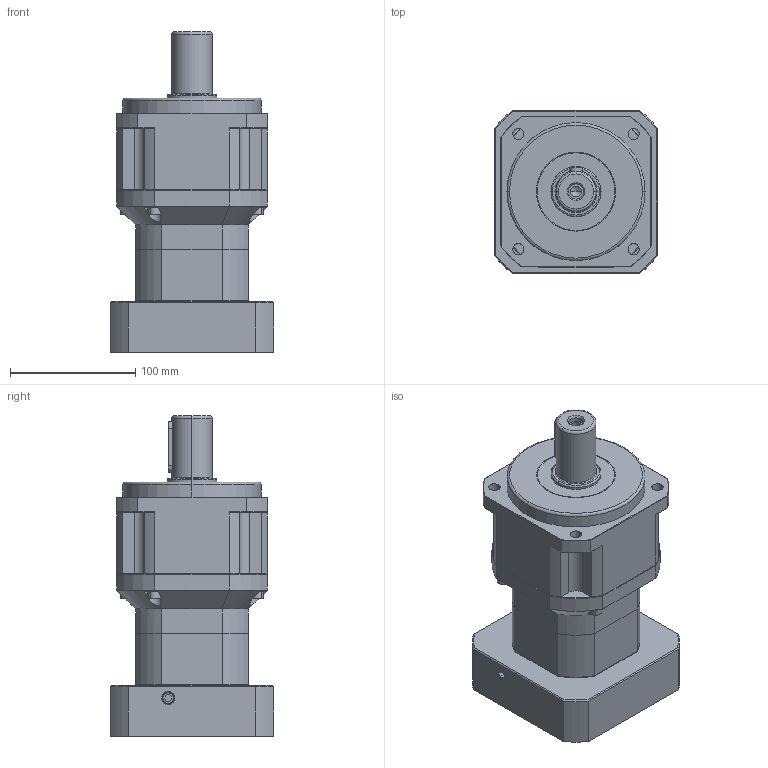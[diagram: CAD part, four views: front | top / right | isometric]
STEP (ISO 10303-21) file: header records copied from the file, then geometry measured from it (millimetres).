
FILE_DESCRIPTION (( 'STEP AP203' ), '1' );
FILE_NAME ('SB120-2-110M8-2.STEP', '2011-07-11T08:46:17', ( '1' ), ( '' ), 'SwSTEP 2.0', 'SolidWorks 2011', '' );
FILE_SCHEMA (( 'CONFIG_CONTROL_DESIGN' ));
Length unit declared in the file: millimetre
Products named in the file (1): SB120-2-110M8-2
Bounding box: 130 x 130 x 255.5 mm (x, y, z)
Volume: 1819385.5 mm3; surface area: 265890.3 mm2
Topology: 21 solids, 21 shells, 840 faces, 2000 edges, 1231 vertices
Faces by surface type: plane 375, cylinder 265, cone 148, torus 37, bspline 15
Entity records: 25577 total; most frequent: CARTESIAN_POINT 5909, DIRECTION 4245, ORIENTED_EDGE 3932, EDGE_CURVE 1966, AXIS2_PLACEMENT_3D 1597, VERTEX_POINT 1231, VECTOR 1051, LINE 1051
